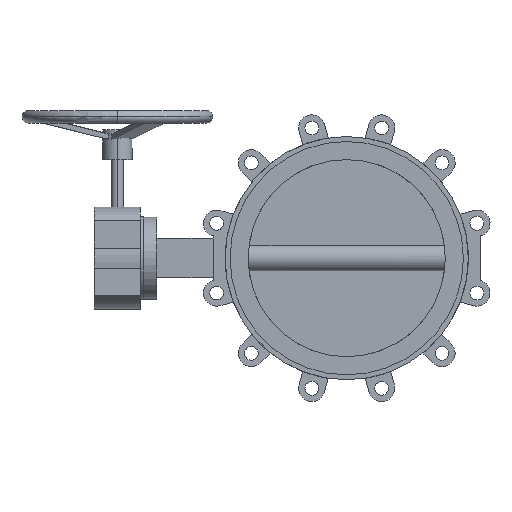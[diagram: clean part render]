
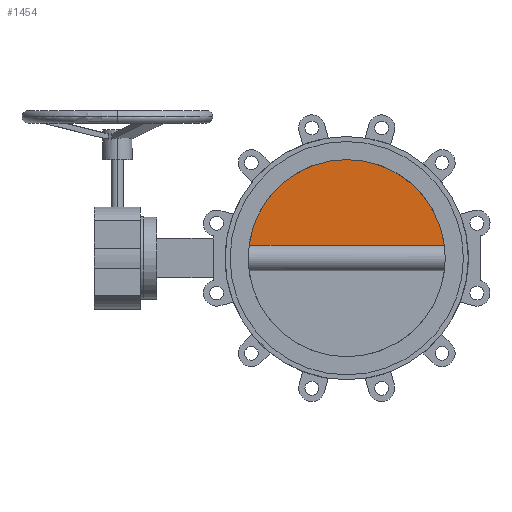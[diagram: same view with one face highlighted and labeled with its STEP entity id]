
A CAD part, left-side view. The second image highlights one B-rep face of the part: STEP entity #1454.
In plain terms, the highlighted planar face has unit normal (-1, 0, 0).
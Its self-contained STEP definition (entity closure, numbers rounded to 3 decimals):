
#32 = DIRECTION ( 'NONE',  ( 0., 1., 0. ) ) ;
#409 = FACE_OUTER_BOUND ( 'NONE', #1196, .T. ) ;
#561 = EDGE_CURVE ( 'NONE', #3231, #7514, #1898, .T. ) ;
#1196 = EDGE_LOOP ( 'NONE', ( #1706, #2653, #2960 ) ) ;
#1454 = ADVANCED_FACE ( 'NONE', ( #409 ), #3450, .F. ) ;
#1696 = DIRECTION ( 'NONE',  ( 0., 0., -1. ) ) ;
#1706 = ORIENTED_EDGE ( 'NONE', *, *, #6438, .F. ) ;
#1898 = CIRCLE ( 'NONE', #4377, 150. ) ;
#2046 = VECTOR ( 'NONE', #32, 1000. ) ;
#2258 = CARTESIAN_POINT ( 'NONE',  ( -5., 0., 0. ) ) ;
#2469 = AXIS2_PLACEMENT_3D ( 'NONE', #2258, #5385, #4760 ) ;
#2653 = ORIENTED_EDGE ( 'NONE', *, *, #561, .F. ) ;
#2719 = CIRCLE ( 'NONE', #4663, 150. ) ;
#2960 = ORIENTED_EDGE ( 'NONE', *, *, #5477, .F. ) ;
#2989 = DIRECTION ( 'NONE',  ( 0., 0., -1. ) ) ;
#3231 = VERTEX_POINT ( 'NONE', #7025 ) ;
#3450 = PLANE ( 'NONE',  #2469 ) ;
#4371 = VERTEX_POINT ( 'NONE', #4770 ) ;
#4377 = AXIS2_PLACEMENT_3D ( 'NONE', #8044, #4801, #1696 ) ;
#4509 = LINE ( 'NONE', #6891, #2046 ) ;
#4663 = AXIS2_PLACEMENT_3D ( 'NONE', #6718, #7305, #2989 ) ;
#4760 = DIRECTION ( 'NONE',  ( 0., 0., -1. ) ) ;
#4770 = CARTESIAN_POINT ( 'NONE',  ( -5., 148.745, 19.365 ) ) ;
#4801 = DIRECTION ( 'NONE',  ( 1., 0., 0. ) ) ;
#5385 = DIRECTION ( 'NONE',  ( 1., 0., 0. ) ) ;
#5477 = EDGE_CURVE ( 'NONE', #4371, #3231, #2719, .T. ) ;
#6373 = CARTESIAN_POINT ( 'NONE',  ( -5., -148.745, 19.365 ) ) ;
#6438 = EDGE_CURVE ( 'NONE', #7514, #4371, #4509, .T. ) ;
#6718 = CARTESIAN_POINT ( 'NONE',  ( -5., 0., 0. ) ) ;
#6891 = CARTESIAN_POINT ( 'NONE',  ( -5., 309.001, 19.365 ) ) ;
#7025 = CARTESIAN_POINT ( 'NONE',  ( -5., 0., 150. ) ) ;
#7305 = DIRECTION ( 'NONE',  ( 1., 0., 0. ) ) ;
#7514 = VERTEX_POINT ( 'NONE', #6373 ) ;
#8044 = CARTESIAN_POINT ( 'NONE',  ( -5., 0., 0. ) ) ;
